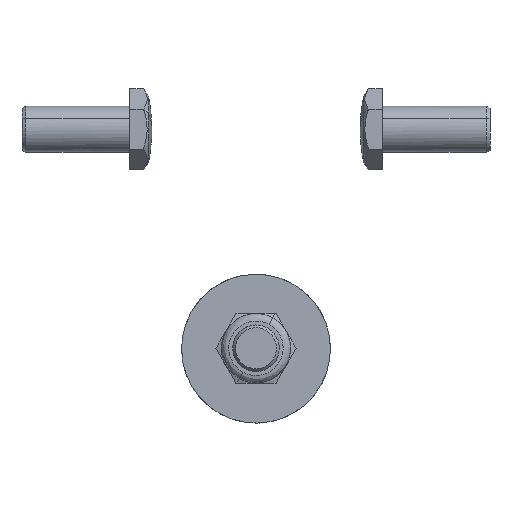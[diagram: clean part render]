
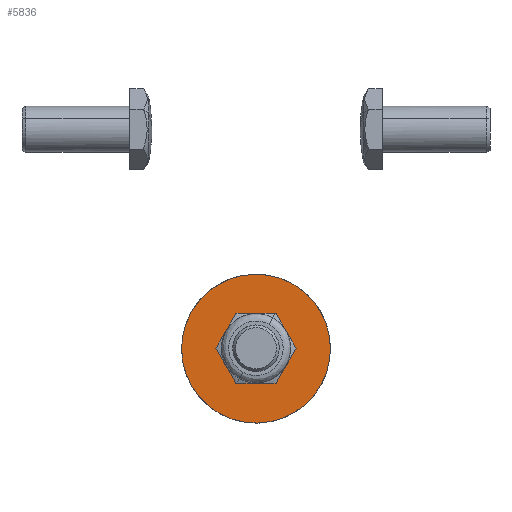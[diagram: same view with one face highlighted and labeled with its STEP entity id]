
A CAD part, top view. The second image highlights one B-rep face of the part: STEP entity #5836.
In plain terms, the highlighted planar face has unit normal (0, 0, 1).
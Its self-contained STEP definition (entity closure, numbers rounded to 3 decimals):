
#1034 = CARTESIAN_POINT ( 'NONE',  ( -20.035, -38.965, -128.2 ) ) ;
#1128 = PLANE ( 'NONE',  #8121 ) ;
#1129 = DIRECTION ( 'NONE',  ( 0., 0., 1. ) ) ;
#1130 = DIRECTION ( 'NONE',  ( 0., -1., 0. ) ) ;
#2376 = CARTESIAN_POINT ( 'NONE',  ( 4.315, -51.102, -128.2 ) ) ;
#2379 = CARTESIAN_POINT ( 'NONE',  ( -4.315, -66.898, -128.2 ) ) ;
#2383 = CARTESIAN_POINT ( 'NONE',  ( 5.701, -51.859, -128.2 ) ) ;
#2384 = CARTESIAN_POINT ( 'NONE',  ( 6.864, -52.968, -128.2 ) ) ;
#2385 = CARTESIAN_POINT ( 'NONE',  ( 7.686, -54.317, -128.2 ) ) ;
#2386 = CARTESIAN_POINT ( 'NONE',  ( 8.508, -55.666, -128.2 ) ) ;
#2387 = CARTESIAN_POINT ( 'NONE',  ( 8.96, -57.208, -128.2 ) ) ;
#2388 = CARTESIAN_POINT ( 'NONE',  ( 8.997, -58.788, -128.2 ) ) ;
#2389 = CARTESIAN_POINT ( 'NONE',  ( 9.035, -60.367, -128.2 ) ) ;
#2390 = CARTESIAN_POINT ( 'NONE',  ( 8.656, -61.928, -128.2 ) ) ;
#2391 = CARTESIAN_POINT ( 'NONE',  ( 7.898, -63.315, -128.2 ) ) ;
#2392 = CARTESIAN_POINT ( 'NONE',  ( 7.141, -64.701, -128.2 ) ) ;
#2393 = CARTESIAN_POINT ( 'NONE',  ( 6.032, -65.864, -128.2 ) ) ;
#2394 = CARTESIAN_POINT ( 'NONE',  ( 4.683, -66.686, -128.2 ) ) ;
#2395 = CARTESIAN_POINT ( 'NONE',  ( 3.334, -67.508, -128.2 ) ) ;
#2396 = CARTESIAN_POINT ( 'NONE',  ( 1.792, -67.96, -128.2 ) ) ;
#2397 = CARTESIAN_POINT ( 'NONE',  ( 0.212, -67.997, -128.2 ) ) ;
#2398 = CARTESIAN_POINT ( 'NONE',  ( -1.367, -68.035, -128.2 ) ) ;
#2399 = CARTESIAN_POINT ( 'NONE',  ( -2.928, -67.656, -128.2 ) ) ;
#2400 = CARTESIAN_POINT ( 'NONE',  ( -4.315, -66.898, -128.2 ) ) ;
#2403 = CARTESIAN_POINT ( 'NONE',  ( -5.701, -66.141, -128.2 ) ) ;
#2519 = VERTEX_POINT ( 'NONE', #3180 ) ;
#2989 = VERTEX_POINT ( 'NONE', #3171 ) ;
#2999 = VERTEX_POINT ( 'NONE', #3164 ) ;
#3131 = CARTESIAN_POINT ( 'NONE',  ( -4.315, -66.898, -128.2 ) ) ;
#3164 = CARTESIAN_POINT ( 'NONE',  ( -9.589, -76.552, -128.2 ) ) ;
#3171 = CARTESIAN_POINT ( 'NONE',  ( 9.589, -41.448, -128.2 ) ) ;
#3177 = VERTEX_POINT ( 'NONE', #3131 ) ;
#3180 = CARTESIAN_POINT ( 'NONE',  ( 4.315, -51.102, -128.2 ) ) ;
#3232 = B_SPLINE_CURVE_WITH_KNOTS ( 'NONE', 3,
 ( #4303, #4323, #4324, #4325, #4326, #4327, #4328, #4329, #4330, #4331, #4332, #4333, #4334, #4335, #4336, #4337, #4338, #4339, #4340 ),
 .UNSPECIFIED., .F., .F.,
 ( 4, 3, 3, 3, 3, 3, 4 ),
 ( -0.057, -0.047, -0.037, -0.026, -0.016, -0.005, 0.005 ),
 .UNSPECIFIED. ) ;
#3235 = B_SPLINE_CURVE_WITH_KNOTS ( 'NONE', 3,
 ( #4239, #4264, #4265, #4266, #4267, #4268, #4269, #4270, #4271, #4272, #4273, #4274, #4275, #4276, #4277, #4278, #4279, #4280, #4281 ),
 .UNSPECIFIED., .F., .F.,
 ( 4, 3, 3, 3, 3, 3, 4 ),
 ( -0.057, -0.047, -0.037, -0.026, -0.016, -0.005, 0.005 ),
 .UNSPECIFIED. ) ;
#3239 = B_SPLINE_CURVE_WITH_KNOTS ( 'NONE', 3,
 ( #2379, #2403, #4153, #4154, #4155, #4156, #4157, #4158, #4159, #4160, #4161, #4162, #4163, #4164, #4165, #4166, #4167, #4168, #4169 ),
 .UNSPECIFIED., .F., .F.,
 ( 4, 3, 3, 3, 3, 3, 4 ),
 ( 0., 0.005, 0.009, 0.014, 0.019, 0.023, 0.028 ),
 .UNSPECIFIED. ) ;
#3240 = B_SPLINE_CURVE_WITH_KNOTS ( 'NONE', 3,
 ( #2376, #2383, #2384, #2385, #2386, #2387, #2388, #2389, #2390, #2391, #2392, #2393, #2394, #2395, #2396, #2397, #2398, #2399, #2400 ),
 .UNSPECIFIED., .F., .F.,
 ( 4, 3, 3, 3, 3, 3, 4 ),
 ( 0., 0.005, 0.009, 0.014, 0.019, 0.023, 0.028 ),
 .UNSPECIFIED. ) ;
#4153 = CARTESIAN_POINT ( 'NONE',  ( -6.864, -65.032, -128.2 ) ) ;
#4154 = CARTESIAN_POINT ( 'NONE',  ( -7.686, -63.683, -128.2 ) ) ;
#4155 = CARTESIAN_POINT ( 'NONE',  ( -8.508, -62.334, -128.2 ) ) ;
#4156 = CARTESIAN_POINT ( 'NONE',  ( -8.96, -60.792, -128.2 ) ) ;
#4157 = CARTESIAN_POINT ( 'NONE',  ( -8.997, -59.212, -128.2 ) ) ;
#4158 = CARTESIAN_POINT ( 'NONE',  ( -9.035, -57.633, -128.2 ) ) ;
#4159 = CARTESIAN_POINT ( 'NONE',  ( -8.656, -56.072, -128.2 ) ) ;
#4160 = CARTESIAN_POINT ( 'NONE',  ( -7.898, -54.685, -128.2 ) ) ;
#4161 = CARTESIAN_POINT ( 'NONE',  ( -7.141, -53.299, -128.2 ) ) ;
#4162 = CARTESIAN_POINT ( 'NONE',  ( -6.032, -52.136, -128.2 ) ) ;
#4163 = CARTESIAN_POINT ( 'NONE',  ( -4.683, -51.314, -128.2 ) ) ;
#4164 = CARTESIAN_POINT ( 'NONE',  ( -3.334, -50.492, -128.2 ) ) ;
#4165 = CARTESIAN_POINT ( 'NONE',  ( -1.792, -50.04, -128.2 ) ) ;
#4166 = CARTESIAN_POINT ( 'NONE',  ( -0.212, -50.003, -128.2 ) ) ;
#4167 = CARTESIAN_POINT ( 'NONE',  ( 1.367, -49.965, -128.2 ) ) ;
#4168 = CARTESIAN_POINT ( 'NONE',  ( 2.928, -50.344, -128.2 ) ) ;
#4169 = CARTESIAN_POINT ( 'NONE',  ( 4.315, -51.102, -128.2 ) ) ;
#4239 = CARTESIAN_POINT ( 'NONE',  ( 9.589, -41.448, -128.2 ) ) ;
#4264 = CARTESIAN_POINT ( 'NONE',  ( 6.508, -39.765, -128.2 ) ) ;
#4265 = CARTESIAN_POINT ( 'NONE',  ( 3.038, -38.923, -128.2 ) ) ;
#4266 = CARTESIAN_POINT ( 'NONE',  ( -0.472, -39.006, -128.2 ) ) ;
#4267 = CARTESIAN_POINT ( 'NONE',  ( -3.982, -39.088, -128.2 ) ) ;
#4268 = CARTESIAN_POINT ( 'NONE',  ( -7.408, -40.094, -128.2 ) ) ;
#4269 = CARTESIAN_POINT ( 'NONE',  ( -10.406, -41.92, -128.2 ) ) ;
#4270 = CARTESIAN_POINT ( 'NONE',  ( -13.404, -43.747, -128.2 ) ) ;
#4271 = CARTESIAN_POINT ( 'NONE',  ( -15.869, -46.331, -128.2 ) ) ;
#4272 = CARTESIAN_POINT ( 'NONE',  ( -17.552, -49.411, -128.2 ) ) ;
#4273 = CARTESIAN_POINT ( 'NONE',  ( -19.235, -52.492, -128.2 ) ) ;
#4274 = CARTESIAN_POINT ( 'NONE',  ( -20.077, -55.962, -128.2 ) ) ;
#4275 = CARTESIAN_POINT ( 'NONE',  ( -19.994, -59.472, -128.2 ) ) ;
#4276 = CARTESIAN_POINT ( 'NONE',  ( -19.912, -62.982, -128.2 ) ) ;
#4277 = CARTESIAN_POINT ( 'NONE',  ( -18.906, -66.408, -128.2 ) ) ;
#4278 = CARTESIAN_POINT ( 'NONE',  ( -17.08, -69.406, -128.2 ) ) ;
#4279 = CARTESIAN_POINT ( 'NONE',  ( -15.253, -72.404, -128.2 ) ) ;
#4280 = CARTESIAN_POINT ( 'NONE',  ( -12.669, -74.869, -128.2 ) ) ;
#4281 = CARTESIAN_POINT ( 'NONE',  ( -9.589, -76.552, -128.2 ) ) ;
#4303 = CARTESIAN_POINT ( 'NONE',  ( -9.589, -76.552, -128.2 ) ) ;
#4323 = CARTESIAN_POINT ( 'NONE',  ( -6.508, -78.235, -128.2 ) ) ;
#4324 = CARTESIAN_POINT ( 'NONE',  ( -3.038, -79.077, -128.2 ) ) ;
#4325 = CARTESIAN_POINT ( 'NONE',  ( 0.472, -78.994, -128.2 ) ) ;
#4326 = CARTESIAN_POINT ( 'NONE',  ( 3.982, -78.912, -128.2 ) ) ;
#4327 = CARTESIAN_POINT ( 'NONE',  ( 7.408, -77.906, -128.2 ) ) ;
#4328 = CARTESIAN_POINT ( 'NONE',  ( 10.406, -76.08, -128.2 ) ) ;
#4329 = CARTESIAN_POINT ( 'NONE',  ( 13.404, -74.253, -128.2 ) ) ;
#4330 = CARTESIAN_POINT ( 'NONE',  ( 15.869, -71.669, -128.2 ) ) ;
#4331 = CARTESIAN_POINT ( 'NONE',  ( 17.552, -68.589, -128.2 ) ) ;
#4332 = CARTESIAN_POINT ( 'NONE',  ( 19.235, -65.508, -128.2 ) ) ;
#4333 = CARTESIAN_POINT ( 'NONE',  ( 20.077, -62.038, -128.2 ) ) ;
#4334 = CARTESIAN_POINT ( 'NONE',  ( 19.994, -58.528, -128.2 ) ) ;
#4335 = CARTESIAN_POINT ( 'NONE',  ( 19.912, -55.018, -128.2 ) ) ;
#4336 = CARTESIAN_POINT ( 'NONE',  ( 18.906, -51.592, -128.2 ) ) ;
#4337 = CARTESIAN_POINT ( 'NONE',  ( 17.08, -48.594, -128.2 ) ) ;
#4338 = CARTESIAN_POINT ( 'NONE',  ( 15.253, -45.596, -128.2 ) ) ;
#4339 = CARTESIAN_POINT ( 'NONE',  ( 12.669, -43.131, -128.2 ) ) ;
#4340 = CARTESIAN_POINT ( 'NONE',  ( 9.589, -41.448, -128.2 ) ) ;
#5137 = EDGE_LOOP ( 'NONE', ( #5396, #5397 ) ) ;
#5200 = EDGE_LOOP ( 'NONE', ( #5399, #5398 ) ) ;
#5396 = ORIENTED_EDGE ( 'NONE', *, *, #8066, .T. ) ;
#5397 = ORIENTED_EDGE ( 'NONE', *, *, #8062, .T. ) ;
#5398 = ORIENTED_EDGE ( 'NONE', *, *, #8055, .T. ) ;
#5399 = ORIENTED_EDGE ( 'NONE', *, *, #8054, .T. ) ;
#5541 = FACE_OUTER_BOUND ( 'NONE', #5137, .T. ) ;
#5542 = FACE_BOUND ( 'NONE', #5200, .T. ) ;
#5836 = ADVANCED_FACE ( 'NONE', ( #5542, #5541 ), #1128, .T. ) ;
#8054 = EDGE_CURVE ( 'NONE', #2519, #3177, #3240, .T. ) ;
#8055 = EDGE_CURVE ( 'NONE', #3177, #2519, #3239, .T. ) ;
#8062 = EDGE_CURVE ( 'NONE', #2989, #2999, #3235, .T. ) ;
#8066 = EDGE_CURVE ( 'NONE', #2999, #2989, #3232, .T. ) ;
#8121 = AXIS2_PLACEMENT_3D ( 'NONE', #1034, #1129, #1130 ) ;
